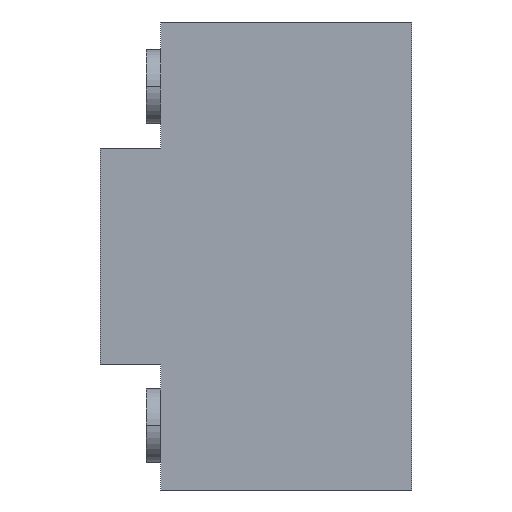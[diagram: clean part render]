
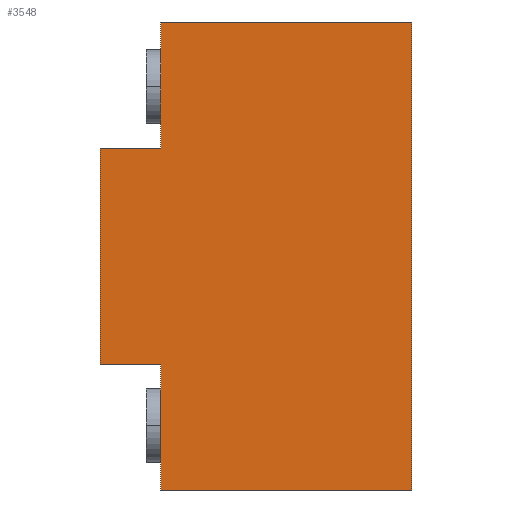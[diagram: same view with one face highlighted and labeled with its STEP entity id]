
A CAD part, left-side view. The second image highlights one B-rep face of the part: STEP entity #3548.
In plain terms, the highlighted planar face has unit normal (-1, 0, 0).
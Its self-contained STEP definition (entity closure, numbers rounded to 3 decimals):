
#1=DIRECTION('',(0.,1.,0.));
#2=VECTOR('',#1,34.9);
#3=CARTESIAN_POINT('',(-276.1,0.,-32.5));
#4=LINE('',#3,#2);
#5=DIRECTION('',(0.,0.,1.));
#6=VECTOR('',#5,17.5);
#7=CARTESIAN_POINT('',(-276.1,34.9,-32.5));
#8=LINE('',#7,#6);
#9=DIRECTION('',(0.,1.,0.));
#10=VECTOR('',#9,8.4);
#11=CARTESIAN_POINT('',(-276.1,34.9,-15.));
#12=LINE('',#11,#10);
#13=DIRECTION('',(0.,0.,1.));
#14=VECTOR('',#13,30.);
#15=CARTESIAN_POINT('',(-276.1,43.3,-15.));
#16=LINE('',#15,#14);
#17=DIRECTION('',(0.,-1.,0.));
#18=VECTOR('',#17,8.4);
#19=CARTESIAN_POINT('',(-276.1,43.3,15.));
#20=LINE('',#19,#18);
#21=DIRECTION('',(0.,0.,1.));
#22=VECTOR('',#21,17.5);
#23=CARTESIAN_POINT('',(-276.1,34.9,15.));
#24=LINE('',#23,#22);
#25=DIRECTION('',(0.,-1.,0.));
#26=VECTOR('',#25,34.9);
#27=CARTESIAN_POINT('',(-276.1,34.9,32.5));
#28=LINE('',#27,#26);
#29=DIRECTION('',(0.,0.,-1.));
#30=VECTOR('',#29,65.);
#31=CARTESIAN_POINT('',(-276.1,0.,32.5));
#32=LINE('',#31,#30);
#2689=CARTESIAN_POINT('',(-276.1,0.,-32.5));
#2690=CARTESIAN_POINT('',(-276.1,34.9,-32.5));
#2691=VERTEX_POINT('',#2689);
#2692=VERTEX_POINT('',#2690);
#2693=CARTESIAN_POINT('',(-276.1,34.9,-15.));
#2694=VERTEX_POINT('',#2693);
#2695=CARTESIAN_POINT('',(-276.1,43.3,-15.));
#2696=VERTEX_POINT('',#2695);
#2697=CARTESIAN_POINT('',(-276.1,43.3,15.));
#2698=VERTEX_POINT('',#2697);
#2699=CARTESIAN_POINT('',(-276.1,34.9,15.));
#2700=VERTEX_POINT('',#2699);
#2701=CARTESIAN_POINT('',(-276.1,34.9,32.5));
#2702=VERTEX_POINT('',#2701);
#2703=CARTESIAN_POINT('',(-276.1,0.,32.5));
#2704=VERTEX_POINT('',#2703);
#3525=CARTESIAN_POINT('',(-276.1,0.,0.));
#3526=DIRECTION('',(1.,0.,0.));
#3527=DIRECTION('',(0.,-1.,0.));
#3528=AXIS2_PLACEMENT_3D('',#3525,#3526,#3527);
#3529=PLANE('',#3528);
#3531=ORIENTED_EDGE('',*,*,#3530,.T.);
#3533=ORIENTED_EDGE('',*,*,#3532,.T.);
#3535=ORIENTED_EDGE('',*,*,#3534,.T.);
#3537=ORIENTED_EDGE('',*,*,#3536,.T.);
#3539=ORIENTED_EDGE('',*,*,#3538,.T.);
#3541=ORIENTED_EDGE('',*,*,#3540,.T.);
#3543=ORIENTED_EDGE('',*,*,#3542,.T.);
#3545=ORIENTED_EDGE('',*,*,#3544,.T.);
#3546=EDGE_LOOP('',(#3531,#3533,#3535,#3537,#3539,#3541,#3543,#3545));
#3547=FACE_OUTER_BOUND('',#3546,.F.);
#3548=ADVANCED_FACE('',(#3547),#3529,.F.);
#3530=EDGE_CURVE('',#2691,#2692,#4,.T.);
#3532=EDGE_CURVE('',#2692,#2694,#8,.T.);
#3534=EDGE_CURVE('',#2694,#2696,#12,.T.);
#3536=EDGE_CURVE('',#2696,#2698,#16,.T.);
#3538=EDGE_CURVE('',#2698,#2700,#20,.T.);
#3540=EDGE_CURVE('',#2700,#2702,#24,.T.);
#3542=EDGE_CURVE('',#2702,#2704,#28,.T.);
#3544=EDGE_CURVE('',#2704,#2691,#32,.T.);
